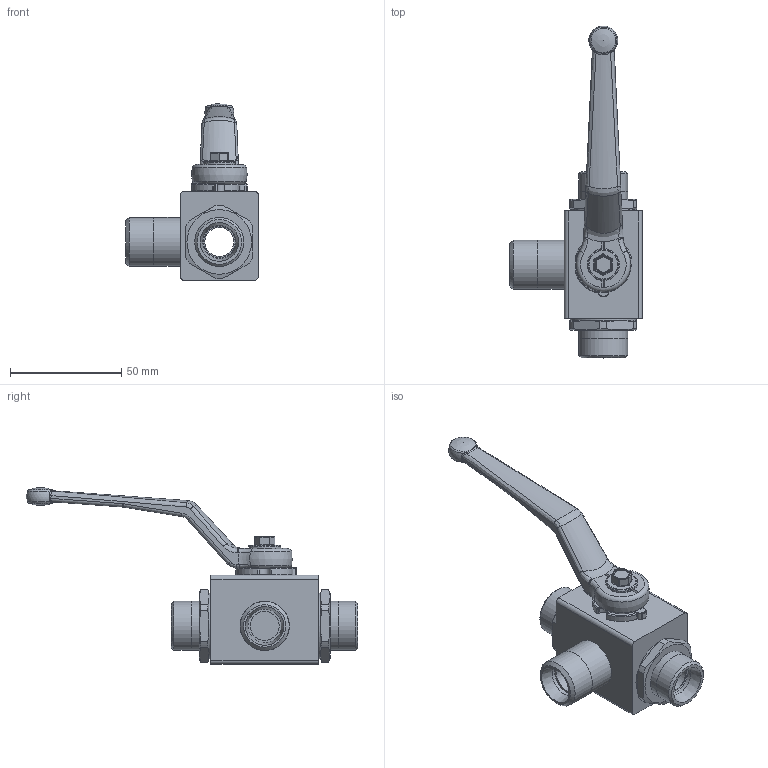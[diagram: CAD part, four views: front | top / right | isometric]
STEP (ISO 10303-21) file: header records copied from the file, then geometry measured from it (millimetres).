
FILE_DESCRIPTION( ( 'Unknown' ), '1' );
FILE_NAME( 'H:/PISTER/3D-MODELLE/BK3 stp/BK3 DN13 15L.stp', 'Unknown', ( 'Unknown' ), ( 'Unknown' ), 'PSStep 14.0', 'Unknown', ' ' );
FILE_SCHEMA( ( 'AUTOMOTIVE_DESIGN { 1 0 10303 214 1 1 1 1 }' ) );
Length unit declared in the file: millimetre
Products named in the file (10): Assem1; 06-013-102-oa7; 09-09-002; 58-28740-07-oa8; Griff_SW9; 58-0933-133; 04-013-129-oa9; 04-013-129-oa10; 04-013-072-oa11; 01-013-023-oa12
Assembly tree (9 placements, depth 2):
  Assem1
    06-013-102-oa7
    09-09-002
    58-28740-07-oa8
    Griff_SW9
    58-0933-133
    04-013-129-oa9
    04-013-129-oa10
    04-013-072-oa11
    01-013-023-oa12
Bounding box: 59.5 x 148.8 x 79.3 mm (x, y, z)
Volume: 40449.8 mm3; surface area: 33936.8 mm2
Topology: 9 solids, 9 shells, 368 faces, 904 edges, 544 vertices
Faces by surface type: cylinder 129, plane 117, bspline 42, torus 40, cone 20, sphere 20
Full cylindrical faces by diameter (mm): 4.2 x1, 4.98 x1, 5 x1, 13 x3, 14 x2, 14.3 x1, 15 x3, 22 x6, 22.1 x1, 29.5 x2, 30 x2
Entity records: 15050 total; most frequent: CARTESIAN_POINT 3829, DIRECTION 1755, ORIENTED_EDGE 1600, EDGE_CURVE 800, AXIS2_PLACEMENT_3D 717, VERTEX_POINT 516, EDGE_LOOP 454, FACE_OUTER_BOUND 403
